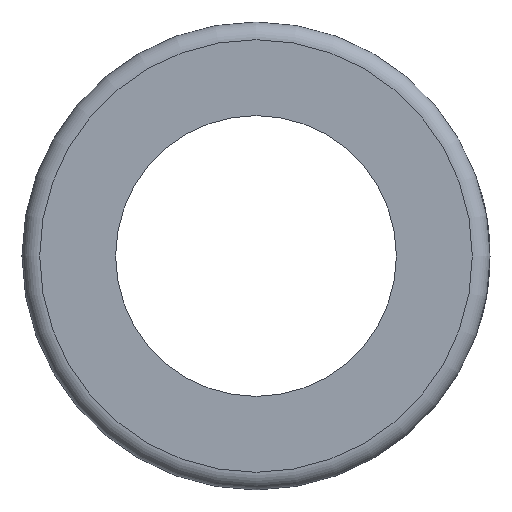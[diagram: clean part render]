
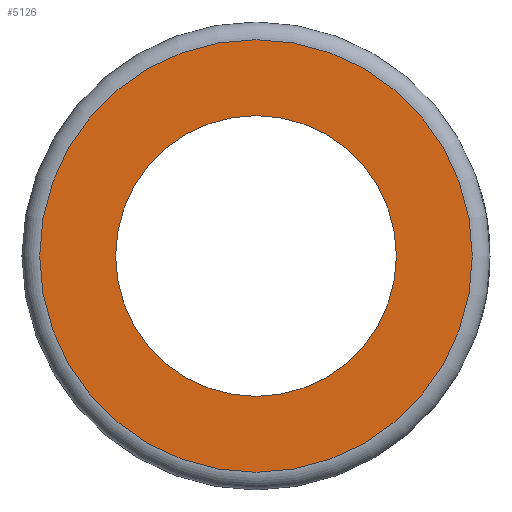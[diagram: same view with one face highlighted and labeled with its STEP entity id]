
A CAD part, left-side view. The second image highlights one B-rep face of the part: STEP entity #5126.
In plain terms, the highlighted planar face has unit normal (-1, 0, 0).
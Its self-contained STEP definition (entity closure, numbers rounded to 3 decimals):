
#120=PLANE('',#5526);
#1566=ORIENTED_EDGE('',*,*,#3112,.T.);
#1567=ORIENTED_EDGE('',*,*,#3113,.T.);
#3112=EDGE_CURVE('',#3885,#3885,#4237,.F.);
#3113=EDGE_CURVE('',#3886,#3886,#4238,.T.);
#3885=VERTEX_POINT('',#8046);
#3886=VERTEX_POINT('',#8048);
#4237=CIRCLE('',#5527,14.675);
#4238=CIRCLE('',#5528,9.525);
#4362=EDGE_LOOP('',(#1566));
#4363=EDGE_LOOP('',(#1567));
#4738=FACE_BOUND('',#4362,.T.);
#4739=FACE_BOUND('',#4363,.T.);
#5126=ADVANCED_FACE('',(#4738,#4739),#120,.F.);
#5526=AXIS2_PLACEMENT_3D('',#8044,#6059,#6060);
#5527=AXIS2_PLACEMENT_3D('',#8045,#6061,#6062);
#5528=AXIS2_PLACEMENT_3D('',#8047,#6063,#6064);
#6059=DIRECTION('',(1.,0.,0.));
#6060=DIRECTION('',(0.,0.,-1.));
#6061=DIRECTION('',(1.,0.,0.));
#6062=DIRECTION('',(0.,0.,-1.));
#6063=DIRECTION('',(1.,0.,0.));
#6064=DIRECTION('',(0.,0.,-1.));
#8044=CARTESIAN_POINT('',(-20.638,0.,0.));
#8045=CARTESIAN_POINT('',(-20.638,0.,0.));
#8046=CARTESIAN_POINT('',(-20.638,0.,-14.675));
#8047=CARTESIAN_POINT('',(-20.638,0.,0.));
#8048=CARTESIAN_POINT('',(-20.638,0.,-9.525));
